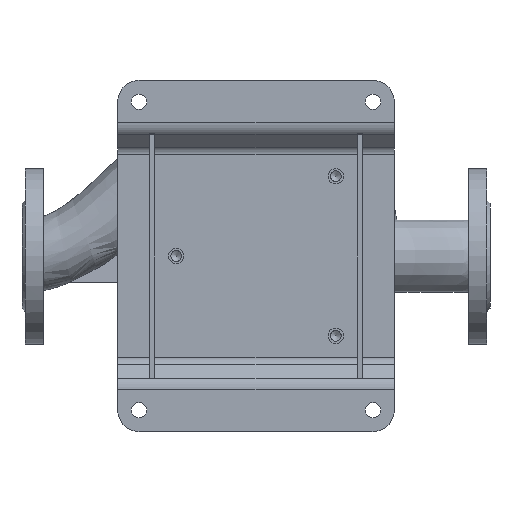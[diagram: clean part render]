
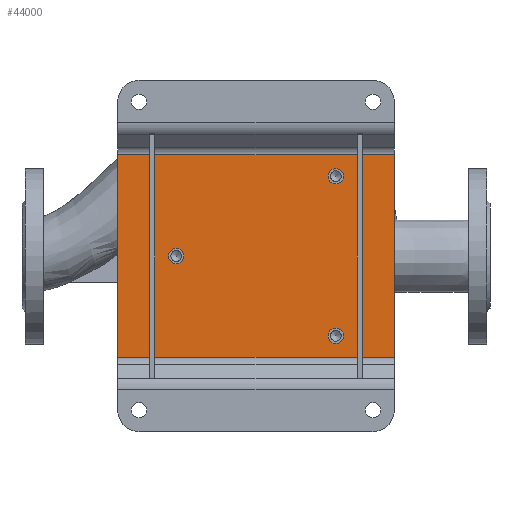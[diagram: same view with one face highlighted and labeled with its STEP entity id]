
A CAD part, top view. The second image highlights one B-rep face of the part: STEP entity #44000.
In plain terms, the highlighted planar face has unit normal (0, 0, 1) as drawn and (0, -1, 0) by its records, which use the part's own axes.
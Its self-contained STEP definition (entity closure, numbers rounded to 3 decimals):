
#1345 = VECTOR ( 'NONE', #20503, 1000. ) ;
#2096 = ORIENTED_EDGE ( 'NONE', *, *, #19045, .F. ) ;
#2375 = CARTESIAN_POINT ( 'NONE',  ( 95., -5., -130. ) ) ;
#3059 = AXIS2_PLACEMENT_3D ( 'NONE', #36935, #40471, #48007 ) ;
#3076 = FACE_BOUND ( 'NONE', #22757, .T. ) ;
#4382 = VERTEX_POINT ( 'NONE', #2375 ) ;
#4637 = VERTEX_POINT ( 'NONE', #19650 ) ;
#4642 = DIRECTION ( 'NONE',  ( 1., 0., 0. ) ) ;
#4794 = CARTESIAN_POINT ( 'NONE',  ( -95., -5., -130. ) ) ;
#6325 = CARTESIAN_POINT ( 'NONE',  ( -95., -5., 130. ) ) ;
#6740 = ORIENTED_EDGE ( 'NONE', *, *, #31895, .F. ) ;
#7006 = CARTESIAN_POINT ( 'NONE',  ( -75., -5., 67.75 ) ) ;
#7304 = CIRCLE ( 'NONE', #12134, 7.25 ) ;
#8115 = ORIENTED_EDGE ( 'NONE', *, *, #24393, .F. ) ;
#8734 = CARTESIAN_POINT ( 'NONE',  ( -95., -5., -130. ) ) ;
#8887 = CARTESIAN_POINT ( 'NONE',  ( 0., -5., -82.25 ) ) ;
#10337 = FACE_OUTER_BOUND ( 'NONE', #27698, .T. ) ;
#10904 = CARTESIAN_POINT ( 'NONE',  ( 95., -5., 130. ) ) ;
#11166 = DIRECTION ( 'NONE',  ( 0., -1., 0. ) ) ;
#11325 = VECTOR ( 'NONE', #4642, 1000. ) ;
#12134 = AXIS2_PLACEMENT_3D ( 'NONE', #19417, #11166, #38249 ) ;
#16584 = LINE ( 'NONE', #47231, #30307 ) ;
#17814 = DIRECTION ( 'NONE',  ( 0., -1., 0. ) ) ;
#19045 = EDGE_CURVE ( 'NONE', #4637, #4637, #45480, .T. ) ;
#19417 = CARTESIAN_POINT ( 'NONE',  ( -75., -5., 75. ) ) ;
#19650 = CARTESIAN_POINT ( 'NONE',  ( 75., -5., 67.75 ) ) ;
#19692 = VECTOR ( 'NONE', #43616, 1000. ) ;
#19727 = CIRCLE ( 'NONE', #47807, 7.25 ) ;
#20503 = DIRECTION ( 'NONE',  ( 0., 0., -1. ) ) ;
#21382 = FACE_BOUND ( 'NONE', #46505, .T. ) ;
#21616 = PLANE ( 'NONE',  #3059 ) ;
#21916 = ORIENTED_EDGE ( 'NONE', *, *, #23872, .F. ) ;
#22757 = EDGE_LOOP ( 'NONE', ( #2096 ) ) ;
#23138 = VERTEX_POINT ( 'NONE', #4794 ) ;
#23834 = DIRECTION ( 'NONE',  ( 0., -1., 0. ) ) ;
#23863 = EDGE_CURVE ( 'NONE', #4382, #23138, #27793, .T. ) ;
#23872 = EDGE_CURVE ( 'NONE', #43739, #4382, #36317, .T. ) ;
#24393 = EDGE_CURVE ( 'NONE', #43526, #43526, #19727, .T. ) ;
#25342 = CARTESIAN_POINT ( 'NONE',  ( 0., -5., -75. ) ) ;
#27632 = EDGE_CURVE ( 'NONE', #40889, #40889, #7304, .T. ) ;
#27698 = EDGE_LOOP ( 'NONE', ( #21916, #6740, #31584, #42950 ) ) ;
#27793 = LINE ( 'NONE', #8734, #19692 ) ;
#27856 = CARTESIAN_POINT ( 'NONE',  ( 75., -5., 75. ) ) ;
#30307 = VECTOR ( 'NONE', #43465, 1000. ) ;
#31584 = ORIENTED_EDGE ( 'NONE', *, *, #44512, .F. ) ;
#31803 = CARTESIAN_POINT ( 'NONE',  ( 95., -5., 130. ) ) ;
#31895 = EDGE_CURVE ( 'NONE', #48717, #43739, #35969, .T. ) ;
#32396 = DIRECTION ( 'NONE',  ( 0., 0., -1. ) ) ;
#35128 = DIRECTION ( 'NONE',  ( 0., 0., -1. ) ) ;
#35484 = CARTESIAN_POINT ( 'NONE',  ( -95., -5., 130. ) ) ;
#35969 = LINE ( 'NONE', #35484, #11325 ) ;
#36317 = LINE ( 'NONE', #31803, #1345 ) ;
#36698 = FACE_BOUND ( 'NONE', #36761, .T. ) ;
#36761 = EDGE_LOOP ( 'NONE', ( #8115 ) ) ;
#36935 = CARTESIAN_POINT ( 'NONE',  ( 0., -5., 0. ) ) ;
#38249 = DIRECTION ( 'NONE',  ( 0., 0., -1. ) ) ;
#40471 = DIRECTION ( 'NONE',  ( 0., -1., 0. ) ) ;
#40889 = VERTEX_POINT ( 'NONE', #7006 ) ;
#41485 = AXIS2_PLACEMENT_3D ( 'NONE', #27856, #23834, #35128 ) ;
#42950 = ORIENTED_EDGE ( 'NONE', *, *, #23863, .F. ) ;
#43465 = DIRECTION ( 'NONE',  ( 0., 0., 1. ) ) ;
#43526 = VERTEX_POINT ( 'NONE', #8887 ) ;
#43616 = DIRECTION ( 'NONE',  ( -1., 0., 0. ) ) ;
#43739 = VERTEX_POINT ( 'NONE', #10904 ) ;
#44000 = ADVANCED_FACE ( 'NONE', ( #3076, #36698, #21382, #10337 ), #21616, .T. ) ;
#44512 = EDGE_CURVE ( 'NONE', #23138, #48717, #16584, .T. ) ;
#45480 = CIRCLE ( 'NONE', #41485, 7.25 ) ;
#45624 = ORIENTED_EDGE ( 'NONE', *, *, #27632, .F. ) ;
#46505 = EDGE_LOOP ( 'NONE', ( #45624 ) ) ;
#47231 = CARTESIAN_POINT ( 'NONE',  ( -95., -5., 130. ) ) ;
#47807 = AXIS2_PLACEMENT_3D ( 'NONE', #25342, #17814, #32396 ) ;
#48007 = DIRECTION ( 'NONE',  ( 0., 0., -1. ) ) ;
#48717 = VERTEX_POINT ( 'NONE', #6325 ) ;
